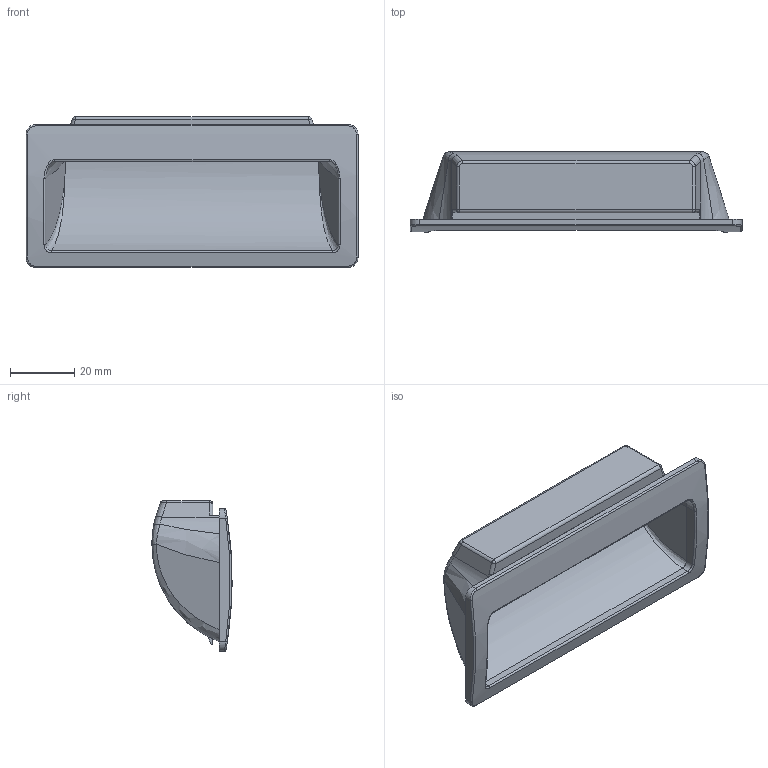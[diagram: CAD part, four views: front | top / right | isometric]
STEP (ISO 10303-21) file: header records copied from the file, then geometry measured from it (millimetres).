
FILE_DESCRIPTION (( 'STEP AP214' ), '1' );
FILE_NAME ('LS025.STEP', '2023-06-28T01:08:28', ( 'Windows 蚚誧' ), ( '' ), 'SwSTEP 2.0', 'SolidWorks 2019', '' );
FILE_SCHEMA (( 'AUTOMOTIVE_DESIGN' ));
Length unit declared in the file: millimetre
Products named in the file (1): LS025
Bounding box: 103.5 x 24.99 x 47 mm (x, y, z)
Volume: 20172.7 mm3; surface area: 19290.5 mm2
Topology: 1 solids, 1 shells, 100 faces, 239 edges, 144 vertices
Faces by surface type: plane 33, cylinder 31, bspline 30, torus 4, sphere 2
Entity records: 6534 total; most frequent: CARTESIAN_POINT 3363, ORIENTED_EDGE 474, DIRECTION 355, EDGE_CURVE 237, VERTEX_POINT 144, AXIS2_PLACEMENT_3D 133, EDGE_LOOP 105, UNCERTAINTY_MEASURE_WITH_UNIT 103
